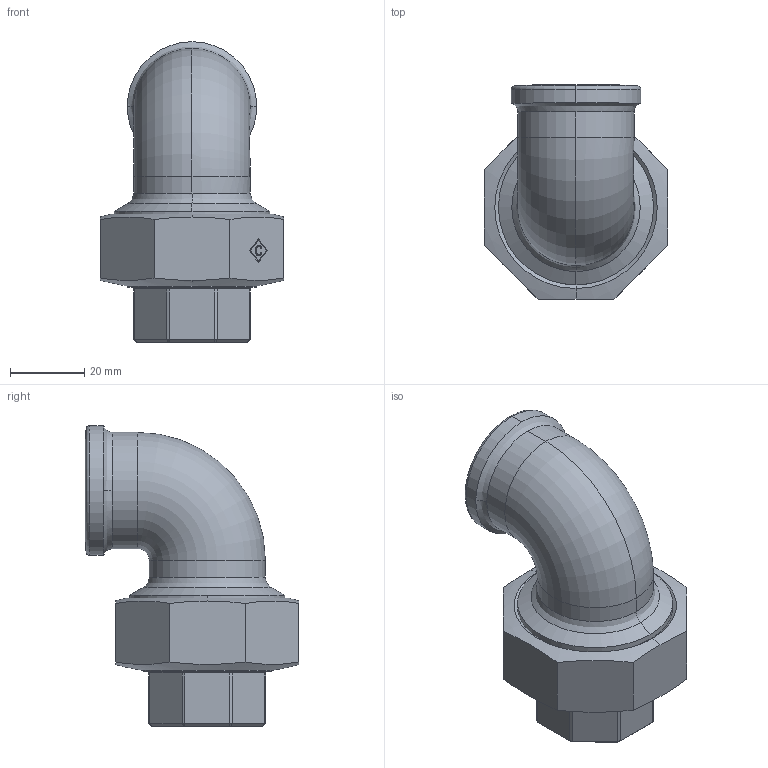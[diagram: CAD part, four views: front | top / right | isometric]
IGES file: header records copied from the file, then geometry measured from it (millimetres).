
Global section: file name: No Iges File Name specified; native system: AutoDesk Inventor R12.0; preprocessor: AutoDesk Inventor Iges Exporter R12.0; date: 20090918.092009; units: millimetre
Bounding box: 49.53 x 57.77 x 81.17 mm (x, y, z)
Volume: 50776.4 mm3; surface area: 24070.5 mm2
Topology: 1 solids, 1 shells, 164 faces, 428 edges, 275 vertices
Faces by surface type: plane 54, bspline 35, revolution 30, cylinder 24, cone 12, torus 8, sphere 1
